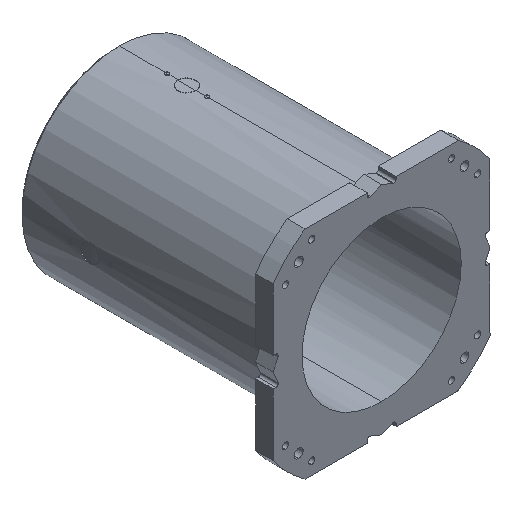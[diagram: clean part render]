
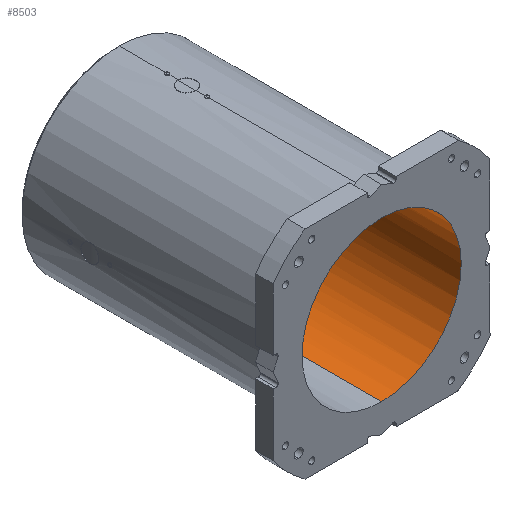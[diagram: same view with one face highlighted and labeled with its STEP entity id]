
A CAD part, isometric view. The second image highlights one B-rep face of the part: STEP entity #8503.
In plain terms, the highlighted cylindrical face has radius 180 mm (diameter 360 mm), a partial arc.
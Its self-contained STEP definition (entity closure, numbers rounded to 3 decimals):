
#284 = CARTESIAN_POINT ( 'NONE',  ( 0., 0., 0. ) ) ;
#308 = ORIENTED_EDGE ( 'NONE', *, *, #8448, .F. ) ;
#518 = DIRECTION ( 'NONE',  ( 0., 1., 0. ) ) ;
#621 = VERTEX_POINT ( 'NONE', #2971 ) ;
#627 = DIRECTION ( 'NONE',  ( 0., 0., 1. ) ) ;
#658 = EDGE_CURVE ( 'NONE', #9634, #1125, #4313, .T. ) ;
#1036 = DIRECTION ( 'NONE',  ( 0., 1., 0. ) ) ;
#1125 = VERTEX_POINT ( 'NONE', #3228 ) ;
#1155 = CARTESIAN_POINT ( 'NONE',  ( 0., 563., 0. ) ) ;
#1166 = AXIS2_PLACEMENT_3D ( 'NONE', #2347, #5687, #2112 ) ;
#1301 = CIRCLE ( 'NONE', #9198, 180. ) ;
#1330 = VERTEX_POINT ( 'NONE', #8809 ) ;
#1509 = DIRECTION ( 'NONE',  ( 0., 1., 0. ) ) ;
#1578 = DIRECTION ( 'NONE',  ( 0., 1., 0. ) ) ;
#2112 = DIRECTION ( 'NONE',  ( 0., 0., 1. ) ) ;
#2347 = CARTESIAN_POINT ( 'NONE',  ( 0., 563., 0. ) ) ;
#2447 = CARTESIAN_POINT ( 'NONE',  ( 0., 0., 180. ) ) ;
#2540 = CARTESIAN_POINT ( 'NONE',  ( 123.123, 563., 131.304 ) ) ;
#2547 = VERTEX_POINT ( 'NONE', #2540 ) ;
#2684 = VECTOR ( 'NONE', #1509, 1000. ) ;
#2754 = AXIS2_PLACEMENT_3D ( 'NONE', #5213, #9817, #627 ) ;
#2971 = CARTESIAN_POINT ( 'NONE',  ( 123.123, 563., -131.304 ) ) ;
#3023 = ORIENTED_EDGE ( 'NONE', *, *, #3803, .F. ) ;
#3228 = CARTESIAN_POINT ( 'NONE',  ( 0., 563., 180. ) ) ;
#3443 = CARTESIAN_POINT ( 'NONE',  ( 0., 563., 0. ) ) ;
#3803 = EDGE_CURVE ( 'NONE', #6098, #7838, #4574, .T. ) ;
#3846 = DIRECTION ( 'NONE',  ( 0., 0., 1. ) ) ;
#4106 = EDGE_CURVE ( 'NONE', #2547, #4411, #5194, .T. ) ;
#4313 = LINE ( 'NONE', #2447, #2684 ) ;
#4411 = VERTEX_POINT ( 'NONE', #11419 ) ;
#4476 = CARTESIAN_POINT ( 'NONE',  ( 0., 563., -180. ) ) ;
#4574 = LINE ( 'NONE', #8355, #9157 ) ;
#4720 = EDGE_LOOP ( 'NONE', ( #3023, #308, #9547, #10532, #11534, #8770, #7327, #10517 ) ) ;
#4721 = CIRCLE ( 'NONE', #1166, 180. ) ;
#4986 = CYLINDRICAL_SURFACE ( 'NONE', #7892, 180. ) ;
#5194 = CIRCLE ( 'NONE', #2754, 180. ) ;
#5213 = CARTESIAN_POINT ( 'NONE',  ( 0., 563., 0. ) ) ;
#5382 = EDGE_CURVE ( 'NONE', #4411, #1330, #8613, .T. ) ;
#5687 = DIRECTION ( 'NONE',  ( 0., 1., 0. ) ) ;
#5868 = FACE_OUTER_BOUND ( 'NONE', #4720, .T. ) ;
#6019 = CIRCLE ( 'NONE', #10183, 180. ) ;
#6098 = VERTEX_POINT ( 'NONE', #7583 ) ;
#6128 = AXIS2_PLACEMENT_3D ( 'NONE', #3443, #1578, #8869 ) ;
#6522 = DIRECTION ( 'NONE',  ( 0., 1., 0. ) ) ;
#7327 = ORIENTED_EDGE ( 'NONE', *, *, #10011, .T. ) ;
#7475 = CARTESIAN_POINT ( 'NONE',  ( 0., 563., 0. ) ) ;
#7583 = CARTESIAN_POINT ( 'NONE',  ( 0., 0., -180. ) ) ;
#7680 = CARTESIAN_POINT ( 'NONE',  ( 0., 0., 180. ) ) ;
#7838 = VERTEX_POINT ( 'NONE', #4476 ) ;
#7892 = AXIS2_PLACEMENT_3D ( 'NONE', #284, #518, #10361 ) ;
#8306 = DIRECTION ( 'NONE',  ( 0., 0., 1. ) ) ;
#8355 = CARTESIAN_POINT ( 'NONE',  ( 0., 0., -180. ) ) ;
#8357 = CARTESIAN_POINT ( 'NONE',  ( 0., 0., 0. ) ) ;
#8448 = EDGE_CURVE ( 'NONE', #9634, #6098, #1301, .T. ) ;
#8503 = ADVANCED_FACE ( 'NONE', ( #5868 ), #4986, .F. ) ;
#8613 = CIRCLE ( 'NONE', #6128, 180. ) ;
#8770 = ORIENTED_EDGE ( 'NONE', *, *, #5382, .T. ) ;
#8809 = CARTESIAN_POINT ( 'NONE',  ( 131.304, 563., -123.123 ) ) ;
#8869 = DIRECTION ( 'NONE',  ( 0., 0., 1. ) ) ;
#9157 = VECTOR ( 'NONE', #11000, 1000. ) ;
#9198 = AXIS2_PLACEMENT_3D ( 'NONE', #8357, #9242, #11293 ) ;
#9234 = CIRCLE ( 'NONE', #11294, 180. ) ;
#9242 = DIRECTION ( 'NONE',  ( 0., 1., 0. ) ) ;
#9547 = ORIENTED_EDGE ( 'NONE', *, *, #658, .T. ) ;
#9634 = VERTEX_POINT ( 'NONE', #7680 ) ;
#9786 = EDGE_CURVE ( 'NONE', #1125, #2547, #6019, .T. ) ;
#9817 = DIRECTION ( 'NONE',  ( 0., 1., 0. ) ) ;
#10011 = EDGE_CURVE ( 'NONE', #1330, #621, #9234, .T. ) ;
#10183 = AXIS2_PLACEMENT_3D ( 'NONE', #1155, #1036, #3846 ) ;
#10361 = DIRECTION ( 'NONE',  ( 0., 0., 1. ) ) ;
#10517 = ORIENTED_EDGE ( 'NONE', *, *, #10524, .T. ) ;
#10524 = EDGE_CURVE ( 'NONE', #621, #7838, #4721, .T. ) ;
#10532 = ORIENTED_EDGE ( 'NONE', *, *, #9786, .T. ) ;
#11000 = DIRECTION ( 'NONE',  ( 0., 1., 0. ) ) ;
#11293 = DIRECTION ( 'NONE',  ( 0., 0., 1. ) ) ;
#11294 = AXIS2_PLACEMENT_3D ( 'NONE', #7475, #6522, #8306 ) ;
#11419 = CARTESIAN_POINT ( 'NONE',  ( 131.304, 563., 123.123 ) ) ;
#11534 = ORIENTED_EDGE ( 'NONE', *, *, #4106, .T. ) ;
